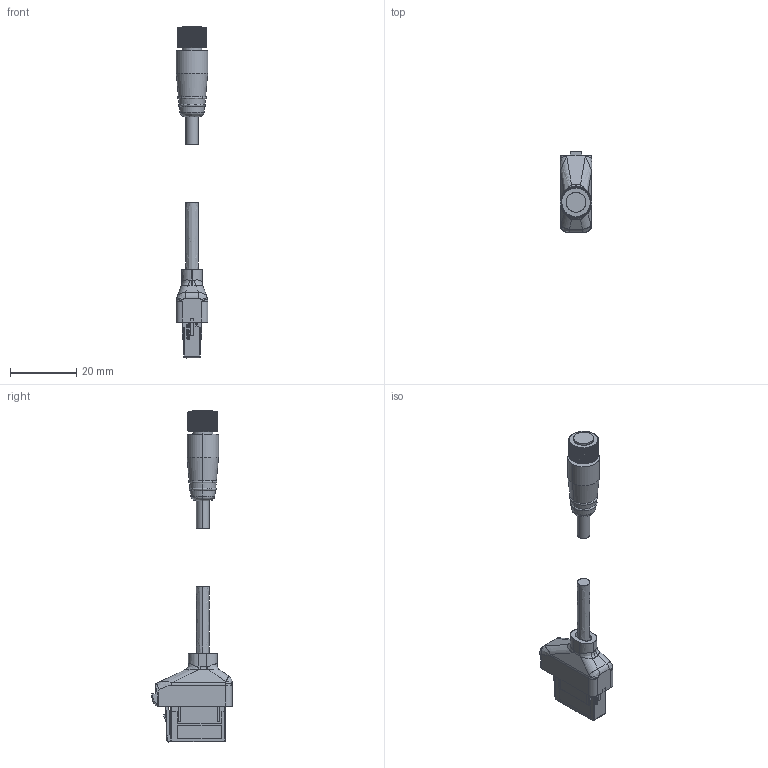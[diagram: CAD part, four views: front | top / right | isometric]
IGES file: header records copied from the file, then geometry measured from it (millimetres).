
Start section: SolidWorks IGES file using analytic representation for surfaces
Bounding box: 9.6 x 24.2 x 100.01 mm (x, y, z)
Surface area: 4304.7 mm2 (no closed solid volume)
Topology: 0 solids, 0 shells, 1141 faces, 8530 edges, 8514 vertices
Faces by surface type: bspline 856, revolution 285
